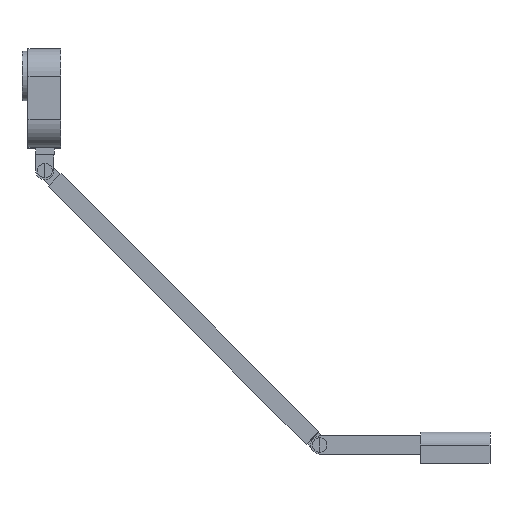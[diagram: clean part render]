
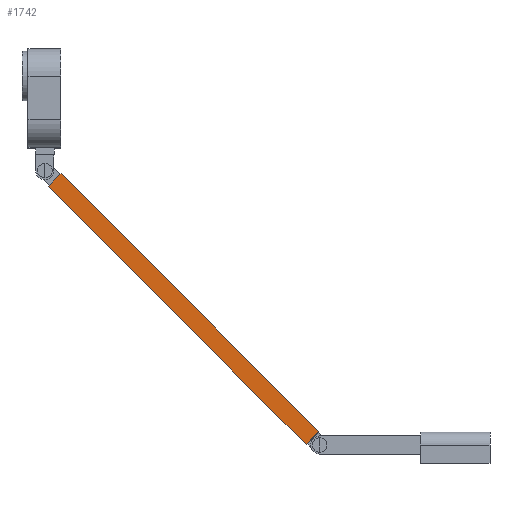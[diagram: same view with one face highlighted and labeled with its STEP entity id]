
A CAD part, left-side view. The second image highlights one B-rep face of the part: STEP entity #1742.
In plain terms, the highlighted planar face has unit normal (-1, 0, 0).
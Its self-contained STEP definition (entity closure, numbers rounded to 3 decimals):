
#202=FACE_OUTER_BOUND('',#319,.T.);
#319=EDGE_LOOP('',(#1187,#1188,#1189,#1190));
#437=LINE('',#2661,#607);
#441=LINE('',#2668,#611);
#444=LINE('',#2674,#614);
#446=LINE('',#2677,#616);
#607=VECTOR('',#2079,304.8);
#611=VECTOR('',#2085,304.8);
#614=VECTOR('',#2090,304.8);
#616=VECTOR('',#2094,304.8);
#777=VERTEX_POINT('',#2658);
#778=VERTEX_POINT('',#2660);
#780=VERTEX_POINT('',#2666);
#782=VERTEX_POINT('',#2672);
#929=EDGE_CURVE('',#778,#777,#437,.T.);
#933=EDGE_CURVE('',#777,#780,#441,.T.);
#936=EDGE_CURVE('',#780,#782,#444,.T.);
#938=EDGE_CURVE('',#782,#778,#446,.T.);
#1187=ORIENTED_EDGE('',*,*,#929,.T.);
#1188=ORIENTED_EDGE('',*,*,#933,.T.);
#1189=ORIENTED_EDGE('',*,*,#936,.T.);
#1190=ORIENTED_EDGE('',*,*,#938,.T.);
#1663=PLANE('',#1873);
#1742=ADVANCED_FACE('',(#202),#1663,.T.);
#1873=AXIS2_PLACEMENT_3D('',#2678,#2095,#2096);
#2079=DIRECTION('',(0.,0.707,0.707));
#2085=DIRECTION('',(0.,0.707,-0.707));
#2090=DIRECTION('',(0.,-0.707,-0.707));
#2094=DIRECTION('',(0.,-0.707,0.707));
#2095=DIRECTION('center_axis',(-1.,0.,0.));
#2096=DIRECTION('ref_axis',(0.,-0.707,0.707));
#2658=CARTESIAN_POINT('',(-7.5,534.919,397.251));
#2660=CARTESIAN_POINT('',(-7.5,181.365,43.697));
#2661=CARTESIAN_POINT('',(-7.5,181.365,43.697));
#2666=CARTESIAN_POINT('',(-7.5,552.596,379.573));
#2668=CARTESIAN_POINT('',(-7.5,534.919,397.251));
#2672=CARTESIAN_POINT('',(-7.5,199.043,26.02));
#2674=CARTESIAN_POINT('',(-7.5,552.596,379.573));
#2677=CARTESIAN_POINT('',(-7.5,199.043,26.02));
#2678=CARTESIAN_POINT('Origin',(-7.5,199.043,26.02));
